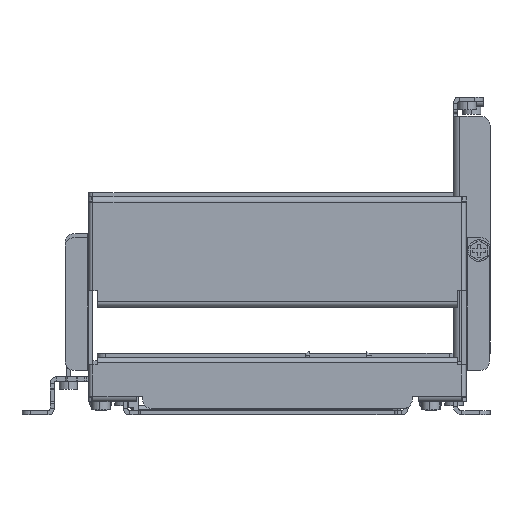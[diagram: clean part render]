
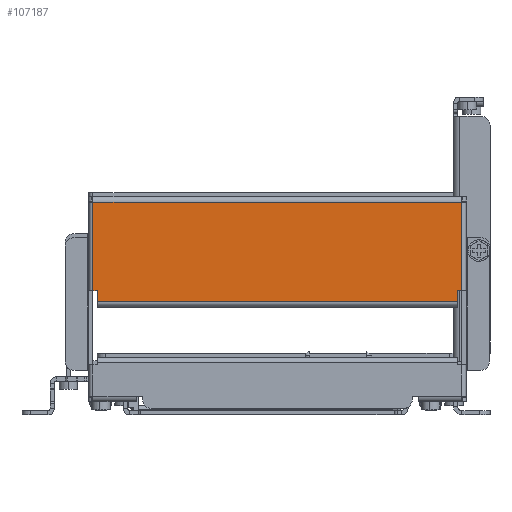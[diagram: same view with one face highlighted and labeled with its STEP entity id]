
A CAD part, left-side view. The second image highlights one B-rep face of the part: STEP entity #107187.
In plain terms, the highlighted planar face has unit normal (-1, 0, 0).
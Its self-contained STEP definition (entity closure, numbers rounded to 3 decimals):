
#36564=DIRECTION('',(0.,-1.,0.));
#36565=VECTOR('',#36564,1.9);
#36566=CARTESIAN_POINT('',(-191.174,81.081,55.7));
#36567=LINE('',#36566,#36565);
#36568=DIRECTION('',(0.,0.,-1.));
#36569=VECTOR('',#36568,41.);
#36570=CARTESIAN_POINT('',(-191.174,81.081,96.7));
#36571=LINE('',#36570,#36569);
#36576=DIRECTION('',(0.,1.,0.));
#36577=VECTOR('',#36576,1.9);
#36578=CARTESIAN_POINT('',(-191.174,-89.92,55.7));
#36579=LINE('',#36578,#36577);
#36584=DIRECTION('',(0.,1.,0.));
#36585=VECTOR('',#36584,171.);
#36586=CARTESIAN_POINT('',(-191.174,-89.92,96.7));
#36587=LINE('',#36586,#36585);
#36908=DIRECTION('',(0.,0.,1.));
#36909=VECTOR('',#36908,41.);
#36910=CARTESIAN_POINT('',(-191.174,-89.92,55.7));
#36911=LINE('',#36910,#36909);
#37108=DIRECTION('',(0.,0.,1.));
#37109=VECTOR('',#37108,5.242);
#37110=CARTESIAN_POINT('',(-191.174,-88.02,50.458));
#37111=LINE('',#37110,#37109);
#37133=DIRECTION('',(0.,-1.,0.));
#37134=VECTOR('',#37133,167.2);
#37135=CARTESIAN_POINT('',(-191.174,79.181,50.458));
#37136=LINE('',#37135,#37134);
#37255=DIRECTION('',(0.,0.,-1.));
#37256=VECTOR('',#37255,5.242);
#37257=CARTESIAN_POINT('',(-191.174,79.181,55.7));
#37258=LINE('',#37257,#37256);
#53841=CARTESIAN_POINT('',(-191.174,-88.02,55.7));
#53842=VERTEX_POINT('',#53841);
#53843=CARTESIAN_POINT('',(-191.174,-89.92,55.7));
#53844=VERTEX_POINT('',#53843);
#53851=CARTESIAN_POINT('',(-191.174,81.081,55.7));
#53852=VERTEX_POINT('',#53851);
#53853=CARTESIAN_POINT('',(-191.174,79.181,55.7));
#53854=VERTEX_POINT('',#53853);
#53855=CARTESIAN_POINT('',(-191.174,81.081,96.7));
#53856=VERTEX_POINT('',#53855);
#53857=CARTESIAN_POINT('',(-191.174,-89.92,96.7));
#53858=VERTEX_POINT('',#53857);
#53859=CARTESIAN_POINT('',(-191.174,-88.02,50.458));
#53860=VERTEX_POINT('',#53859);
#53861=CARTESIAN_POINT('',(-191.174,79.181,50.458));
#53862=VERTEX_POINT('',#53861);
#107167=CARTESIAN_POINT('',(-191.174,-4.42,6.7));
#107168=DIRECTION('',(-1.,0.,0.));
#107169=DIRECTION('',(0.,0.,-1.));
#107170=AXIS2_PLACEMENT_3D('',#107167,#107168,#107169);
#107171=PLANE('',#107170);
#107172=ORIENTED_EDGE('',*,*,#107146,.F.);
#107173=ORIENTED_EDGE('',*,*,#107158,.F.);
#107175=ORIENTED_EDGE('',*,*,#107174,.F.);
#107177=ORIENTED_EDGE('',*,*,#107176,.F.);
#107178=ORIENTED_EDGE('',*,*,#107109,.T.);
#107180=ORIENTED_EDGE('',*,*,#107179,.F.);
#107182=ORIENTED_EDGE('',*,*,#107181,.F.);
#107184=ORIENTED_EDGE('',*,*,#107183,.F.);
#107185=EDGE_LOOP('',(#107172,#107173,#107175,#107177,#107178,#107180,#107182,
#107184));
#107186=FACE_OUTER_BOUND('',#107185,.F.);
#107187=ADVANCED_FACE('',(#107186),#107171,.T.);
#107109=EDGE_CURVE('',#53844,#53842,#36579,.T.);
#107146=EDGE_CURVE('',#53852,#53854,#36567,.T.);
#107158=EDGE_CURVE('',#53856,#53852,#36571,.T.);
#107174=EDGE_CURVE('',#53858,#53856,#36587,.T.);
#107176=EDGE_CURVE('',#53844,#53858,#36911,.T.);
#107179=EDGE_CURVE('',#53860,#53842,#37111,.T.);
#107181=EDGE_CURVE('',#53862,#53860,#37136,.T.);
#107183=EDGE_CURVE('',#53854,#53862,#37258,.T.);
